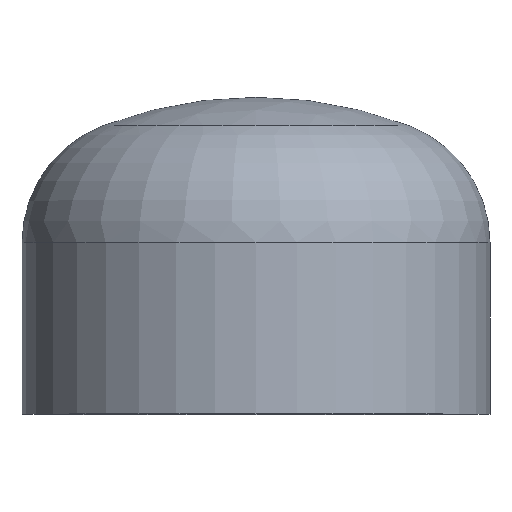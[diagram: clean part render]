
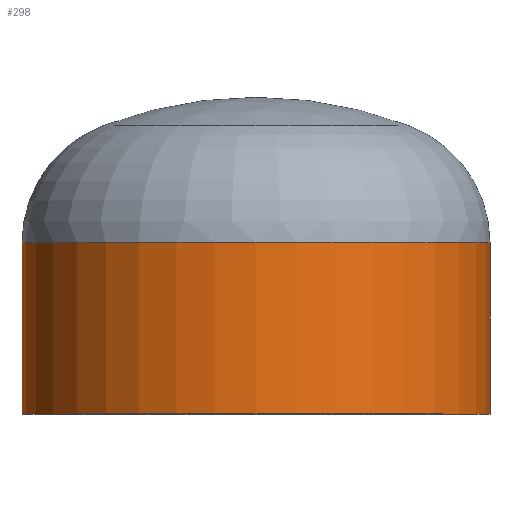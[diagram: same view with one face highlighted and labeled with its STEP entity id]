
A CAD part, top view. The second image highlights one B-rep face of the part: STEP entity #298.
In plain terms, the highlighted cylindrical face has radius 136.5 mm (diameter 273 mm), a partial arc.
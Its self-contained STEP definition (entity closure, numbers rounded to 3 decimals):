
#4 = ORIENTED_EDGE ( 'NONE', *, *, #113, .T. ) ;
#17 = AXIS2_PLACEMENT_3D ( 'NONE', #188, #383, #48 ) ;
#21 = VERTEX_POINT ( 'NONE', #261 ) ;
#32 = VERTEX_POINT ( 'NONE', #304 ) ;
#44 = CIRCLE ( 'NONE', #78, 136.5 ) ;
#48 = DIRECTION ( 'NONE',  ( 1., 0., 0. ) ) ;
#55 = VERTEX_POINT ( 'NONE', #307 ) ;
#68 = ORIENTED_EDGE ( 'NONE', *, *, #82, .F. ) ;
#78 = AXIS2_PLACEMENT_3D ( 'NONE', #365, #363, #360 ) ;
#81 = VERTEX_POINT ( 'NONE', #254 ) ;
#82 = EDGE_CURVE ( 'NONE', #81, #21, #89, .T. ) ;
#89 = CIRCLE ( 'NONE', #102, 136.5 ) ;
#102 = AXIS2_PLACEMENT_3D ( 'NONE', #241, #238, #354 ) ;
#106 = EDGE_CURVE ( 'NONE', #32, #21, #377, .T. ) ;
#113 = EDGE_CURVE ( 'NONE', #55, #32, #44, .T. ) ;
#124 = EDGE_LOOP ( 'NONE', ( #4, #253, #68, #181 ) ) ;
#146 = DIRECTION ( 'NONE',  ( 0., -1., 0. ) ) ;
#151 = FACE_OUTER_BOUND ( 'NONE', #124, .T. ) ;
#159 = VECTOR ( 'NONE', #146, 1000. ) ;
#176 = VECTOR ( 'NONE', #350, 1000. ) ;
#181 = ORIENTED_EDGE ( 'NONE', *, *, #397, .F. ) ;
#185 = CYLINDRICAL_SURFACE ( 'NONE', #17, 136.5 ) ;
#188 = CARTESIAN_POINT ( 'NONE',  ( 0., 0., 0. ) ) ;
#226 = LINE ( 'NONE', #289, #159 ) ;
#238 = DIRECTION ( 'NONE',  ( 0., -1., 0. ) ) ;
#241 = CARTESIAN_POINT ( 'NONE',  ( 0., 0., 0. ) ) ;
#253 = ORIENTED_EDGE ( 'NONE', *, *, #106, .T. ) ;
#254 = CARTESIAN_POINT ( 'NONE',  ( 136.5, 0., 0. ) ) ;
#261 = CARTESIAN_POINT ( 'NONE',  ( -136.5, 0., 0. ) ) ;
#289 = CARTESIAN_POINT ( 'NONE',  ( 136.5, 0., 0. ) ) ;
#298 = ADVANCED_FACE ( 'NONE', ( #151 ), #185, .T. ) ;
#304 = CARTESIAN_POINT ( 'NONE',  ( -136.5, 100., 0. ) ) ;
#307 = CARTESIAN_POINT ( 'NONE',  ( 136.5, 100., 0. ) ) ;
#350 = DIRECTION ( 'NONE',  ( 0., -1., 0. ) ) ;
#351 = CARTESIAN_POINT ( 'NONE',  ( -136.5, 0., 0. ) ) ;
#354 = DIRECTION ( 'NONE',  ( 1., 0., 0. ) ) ;
#360 = DIRECTION ( 'NONE',  ( 1., 0., 0. ) ) ;
#363 = DIRECTION ( 'NONE',  ( 0., -1., 0. ) ) ;
#365 = CARTESIAN_POINT ( 'NONE',  ( 0., 100., 0. ) ) ;
#377 = LINE ( 'NONE', #351, #176 ) ;
#383 = DIRECTION ( 'NONE',  ( 0., -1., 0. ) ) ;
#397 = EDGE_CURVE ( 'NONE', #55, #81, #226, .T. ) ;
